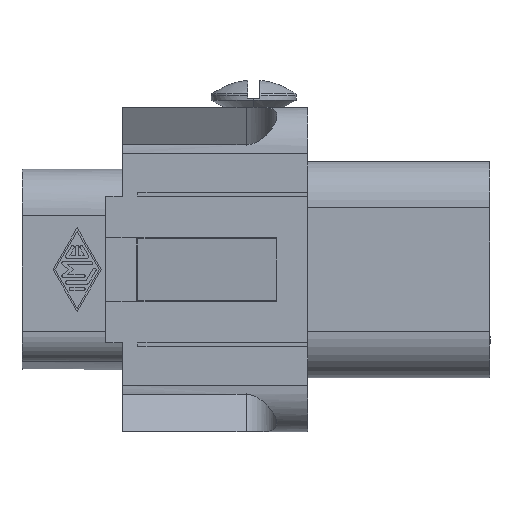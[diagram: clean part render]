
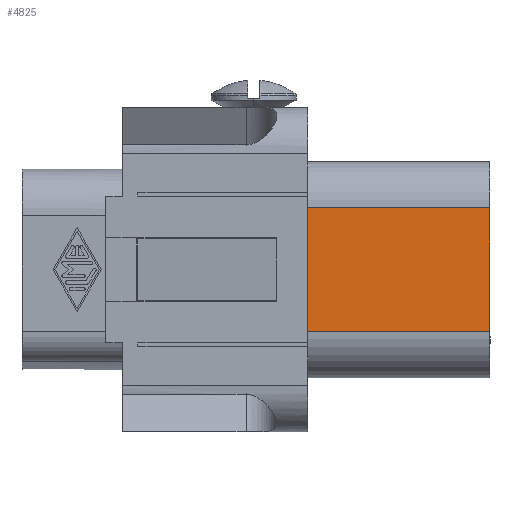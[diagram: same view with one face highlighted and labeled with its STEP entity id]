
A CAD part, front view. The second image highlights one B-rep face of the part: STEP entity #4825.
In plain terms, the highlighted planar face has unit normal (0, -1, 0).
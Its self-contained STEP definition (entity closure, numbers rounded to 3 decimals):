
#1555 = LINE ( 'NONE', #2316, #1565 ) ;
#1561 = LINE ( 'NONE', #2323, #1562 ) ;
#1562 = VECTOR ( 'NONE', #2324, 1000. ) ;
#1565 = VECTOR ( 'NONE', #2328, 1000. ) ;
#1568 = LINE ( 'NONE', #2327, #1572 ) ;
#1572 = VECTOR ( 'NONE', #2337, 1000. ) ;
#1710 = VECTOR ( 'NONE', #2548, 1000. ) ;
#1713 = LINE ( 'NONE', #2547, #1710 ) ;
#2316 = CARTESIAN_POINT ( 'NONE',  ( 0., -7., -4. ) ) ;
#2323 = CARTESIAN_POINT ( 'NONE',  ( 0., -7., 0. ) ) ;
#2324 = DIRECTION ( 'NONE',  ( 0., 0., 1. ) ) ;
#2327 = CARTESIAN_POINT ( 'NONE',  ( 0., -7., 4. ) ) ;
#2328 = DIRECTION ( 'NONE',  ( 1., 0., 0. ) ) ;
#2337 = DIRECTION ( 'NONE',  ( 1., 0., 0. ) ) ;
#2547 = CARTESIAN_POINT ( 'NONE',  ( 11.8, -7., -4. ) ) ;
#2548 = DIRECTION ( 'NONE',  ( 0., 0., 1. ) ) ;
#4825 = ADVANCED_FACE ( 'NONE', ( #7240 ), #13806, .T. ) ;
#6057 = VERTEX_POINT ( 'NONE', #12804 ) ;
#6058 = VERTEX_POINT ( 'NONE', #12805 ) ;
#6174 = VERTEX_POINT ( 'NONE', #12848 ) ;
#6175 = VERTEX_POINT ( 'NONE', #12849 ) ;
#7240 = FACE_OUTER_BOUND ( 'NONE', #7871, .T. ) ;
#7871 = EDGE_LOOP ( 'NONE', ( #12391, #12390, #12261, #12389 ) ) ;
#9453 = EDGE_CURVE ( 'NONE', #6174, #6175, #1561, .T. ) ;
#9455 = EDGE_CURVE ( 'NONE', #6174, #6057, #1555, .T. ) ;
#9459 = EDGE_CURVE ( 'NONE', #6175, #6058, #1568, .T. ) ;
#9469 = AXIS2_PLACEMENT_3D ( 'NONE', #13804, #13809, #13810 ) ;
#12261 = ORIENTED_EDGE ( 'NONE', *, *, #14194, .T. ) ;
#12389 = ORIENTED_EDGE ( 'NONE', *, *, #9459, .F. ) ;
#12390 = ORIENTED_EDGE ( 'NONE', *, *, #9455, .T. ) ;
#12391 = ORIENTED_EDGE ( 'NONE', *, *, #9453, .F. ) ;
#12804 = CARTESIAN_POINT ( 'NONE',  ( 11.8, -7., -4. ) ) ;
#12805 = CARTESIAN_POINT ( 'NONE',  ( 11.8, -7., 4. ) ) ;
#12848 = CARTESIAN_POINT ( 'NONE',  ( 0., -7., -4. ) ) ;
#12849 = CARTESIAN_POINT ( 'NONE',  ( 0., -7., 4. ) ) ;
#13804 = CARTESIAN_POINT ( 'NONE',  ( 0., -7., -4. ) ) ;
#13806 = PLANE ( 'NONE',  #9469 ) ;
#13809 = DIRECTION ( 'NONE',  ( 0., -1., 0. ) ) ;
#13810 = DIRECTION ( 'NONE',  ( 0., 0., -1. ) ) ;
#14194 = EDGE_CURVE ( 'NONE', #6057, #6058, #1713, .T. ) ;
